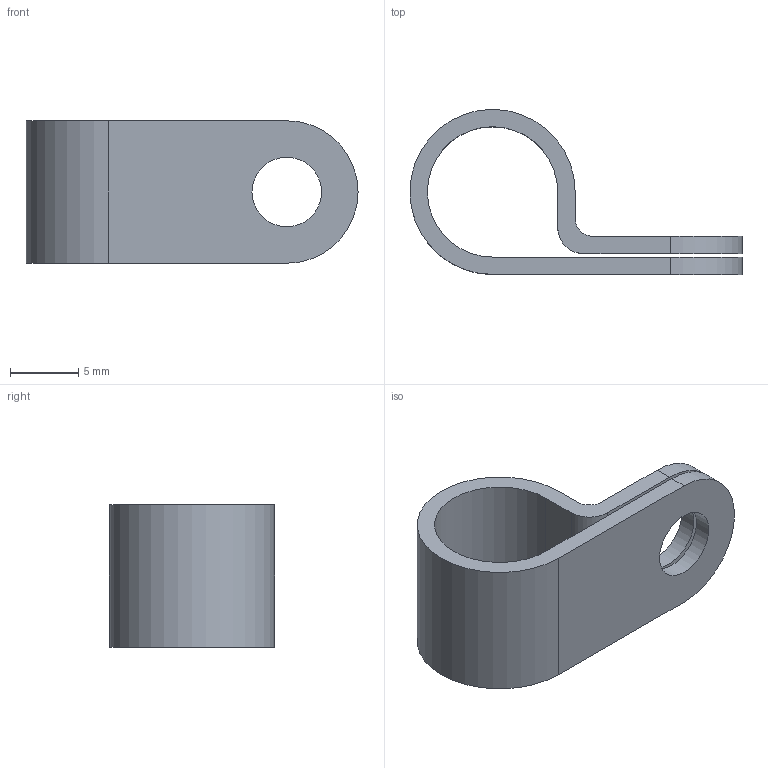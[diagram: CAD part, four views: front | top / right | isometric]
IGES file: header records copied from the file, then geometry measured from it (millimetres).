
Global section: file name: No Iges File Name specified; native system: AutoDesk Inventor R6.0; preprocessor: AutoDesk Inventor Iges Exporter R6.0; author: No Author specified; organization: No Organization specified; date: 20080103.174723; units: inch
Bounding box: 24.26 x 12.06 x 10.41 mm (x, y, z)
Surface area: 1323.4 mm2 (no closed solid volume)
Topology: 0 solids, 0 shells, 16 faces, 83 edges, 81 vertices
Faces by surface type: plane 8, revolution 6, bspline 2
